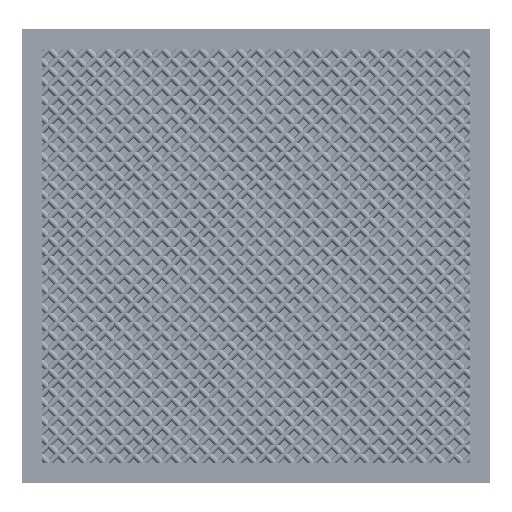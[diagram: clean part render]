
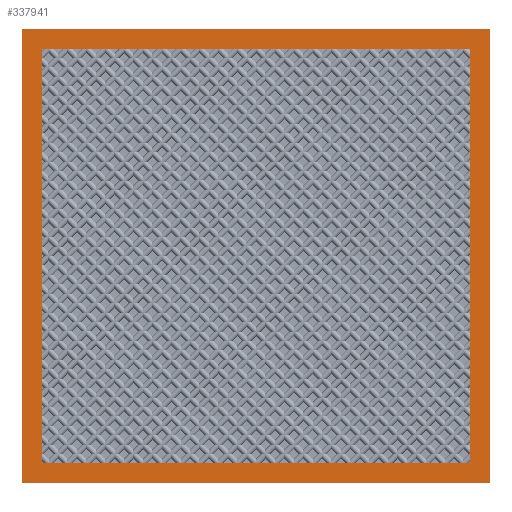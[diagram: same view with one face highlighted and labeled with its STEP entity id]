
A CAD part, top view. The second image highlights one B-rep face of the part: STEP entity #337941.
In plain terms, the highlighted planar face has unit normal (0, 0, 1).
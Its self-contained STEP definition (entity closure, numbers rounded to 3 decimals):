
#62=DIRECTION('',(1.,0.,0.));
#63=VECTOR('',#62,8.9);
#64=CARTESIAN_POINT('',(-4.45,-4.31,0.39));
#65=LINE('',#64,#63);
#66=DIRECTION('',(0.,-1.,0.));
#67=VECTOR('',#66,8.62);
#68=CARTESIAN_POINT('',(-4.45,4.31,0.39));
#69=LINE('',#68,#67);
#70=DIRECTION('',(-1.,0.,0.));
#71=VECTOR('',#70,8.9);
#72=CARTESIAN_POINT('',(4.45,4.31,0.39));
#73=LINE('',#72,#71);
#74=DIRECTION('',(0.,1.,0.));
#75=VECTOR('',#74,8.62);
#76=CARTESIAN_POINT('',(4.45,-4.31,0.39));
#77=LINE('',#76,#75);
#78=DIRECTION('',(0.,-1.,0.));
#79=VECTOR('',#78,7.87);
#80=CARTESIAN_POINT('',(-4.075,3.935,0.39));
#81=LINE('',#80,#79);
#82=DIRECTION('',(1.,0.,0.));
#83=VECTOR('',#82,8.15);
#84=CARTESIAN_POINT('',(-4.075,-3.935,0.39));
#85=LINE('',#84,#83);
#86=DIRECTION('',(0.,1.,0.));
#87=VECTOR('',#86,7.87);
#88=CARTESIAN_POINT('',(4.075,-3.935,0.39));
#89=LINE('',#88,#87);
#90=DIRECTION('',(-1.,0.,0.));
#91=VECTOR('',#90,8.15);
#92=CARTESIAN_POINT('',(4.075,3.935,0.39));
#93=LINE('',#92,#91);
#322742=CARTESIAN_POINT('',(-4.45,-4.31,0.39));
#322743=CARTESIAN_POINT('',(4.45,-4.31,0.39));
#322744=VERTEX_POINT('',#322742);
#322745=VERTEX_POINT('',#322743);
#322746=CARTESIAN_POINT('',(4.45,4.31,0.39));
#322747=VERTEX_POINT('',#322746);
#322748=CARTESIAN_POINT('',(-4.45,4.31,0.39));
#322749=VERTEX_POINT('',#322748);
#322750=CARTESIAN_POINT('',(-4.075,3.935,0.39));
#322751=CARTESIAN_POINT('',(-4.075,-3.935,0.39));
#322752=VERTEX_POINT('',#322750);
#322753=VERTEX_POINT('',#322751);
#322754=CARTESIAN_POINT('',(4.075,-3.935,0.39));
#322755=VERTEX_POINT('',#322754);
#322756=CARTESIAN_POINT('',(4.075,3.935,0.39));
#322757=VERTEX_POINT('',#322756);
#337920=CARTESIAN_POINT('',(0.,0.,0.39));
#337921=DIRECTION('',(0.,0.,1.));
#337922=DIRECTION('',(1.,0.,0.));
#337923=AXIS2_PLACEMENT_3D('',#337920,#337921,#337922);
#337924=PLANE('',#337923);
#337925=ORIENTED_EDGE('',*,*,#337872,.F.);
#337926=ORIENTED_EDGE('',*,*,#337887,.F.);
#337927=ORIENTED_EDGE('',*,*,#337901,.F.);
#337928=ORIENTED_EDGE('',*,*,#337914,.F.);
#337929=EDGE_LOOP('',(#337925,#337926,#337927,#337928));
#337930=FACE_OUTER_BOUND('',#337929,.F.);
#337932=ORIENTED_EDGE('',*,*,#337931,.T.);
#337934=ORIENTED_EDGE('',*,*,#337933,.T.);
#337936=ORIENTED_EDGE('',*,*,#337935,.T.);
#337938=ORIENTED_EDGE('',*,*,#337937,.T.);
#337939=EDGE_LOOP('',(#337932,#337934,#337936,#337938));
#337940=FACE_BOUND('',#337939,.F.);
#337872=EDGE_CURVE('',#322744,#322745,#65,.T.);
#337887=EDGE_CURVE('',#322749,#322744,#69,.T.);
#337901=EDGE_CURVE('',#322747,#322749,#73,.T.);
#337914=EDGE_CURVE('',#322745,#322747,#77,.T.);
#337931=EDGE_CURVE('',#322752,#322753,#81,.T.);
#337933=EDGE_CURVE('',#322753,#322755,#85,.T.);
#337935=EDGE_CURVE('',#322755,#322757,#89,.T.);
#337937=EDGE_CURVE('',#322757,#322752,#93,.T.);
#337941=ADVANCED_FACE('',(#337930,#337940),#337924,.T.);
